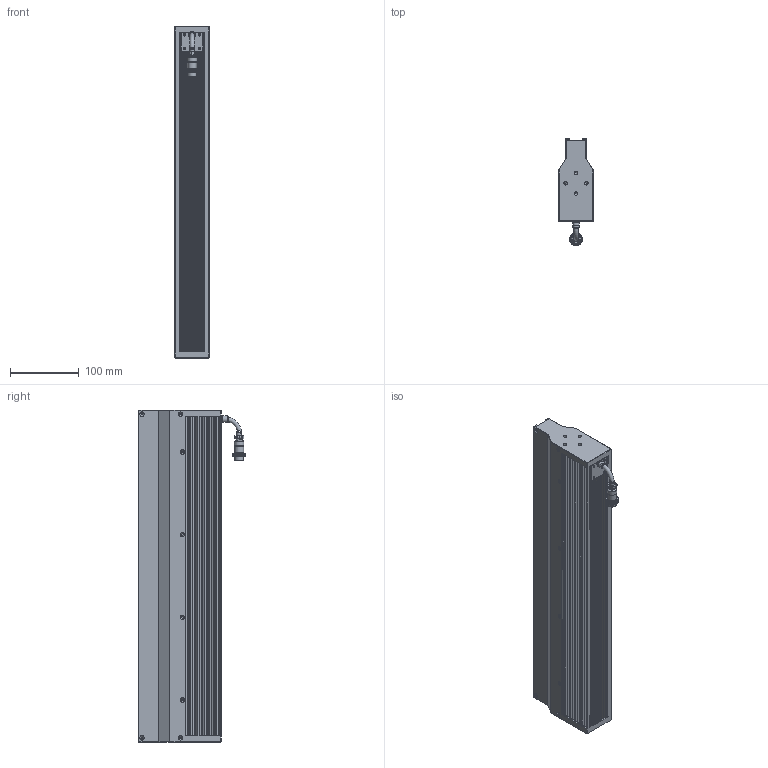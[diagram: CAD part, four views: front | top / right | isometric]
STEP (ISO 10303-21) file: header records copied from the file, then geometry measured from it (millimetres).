
FILE_DESCRIPTION (( 'STEP AP203' ), '1' );
FILE_NAME ('OPT-LSNL482-W-V1.1尨砩芞.STEP', '2025-02-18T02:37:58', ( '' ), ( '' ), 'SwSTEP 2.0', 'SolidWorks 2016', '' );
FILE_SCHEMA (( 'CONFIG_CONTROL_DESIGN' ));
Length unit declared in the file: millimetre
Products named in the file (1): OPT-LSNL482-W-V1.1尨砩芞
Bounding box: 50.02 x 155.15 x 482 mm (x, y, z)
Volume: 1746502.7 mm3; surface area: 576613.6 mm2
Topology: 5 solids, 10 shells, 3606 faces, 8205 edges, 4629 vertices
Faces by surface type: bspline 2059, cylinder 757, plane 743, cone 39, torus 8
Full cylindrical faces by diameter (mm): 0.95 x6, 1.1 x2, 1.4 x2, 2 x4, 2.5 x10, 3 x12, 3.4 x16, 3.5 x4, 5 x8, 6.4 x3, 7.5 x1, 8.6 x1, 9.3 x1, 9.8 x1, 10 x1, 13.2 x1, 14 x1, 16.1 x1
Entity records: 125924 total; most frequent: CARTESIAN_POINT 64568, ORIENTED_EDGE 16042, EDGE_CURVE 8021, DIRECTION 5958, B_SPLINE_CURVE_WITH_KNOTS 5578, VERTEX_POINT 4571, EDGE_LOOP 3798, FACE_OUTER_BOUND 3689
